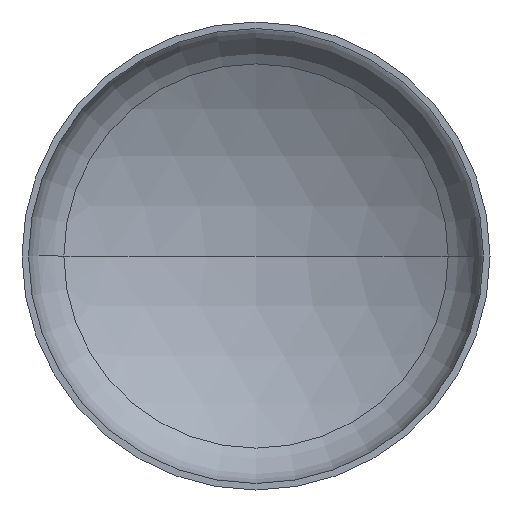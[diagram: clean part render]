
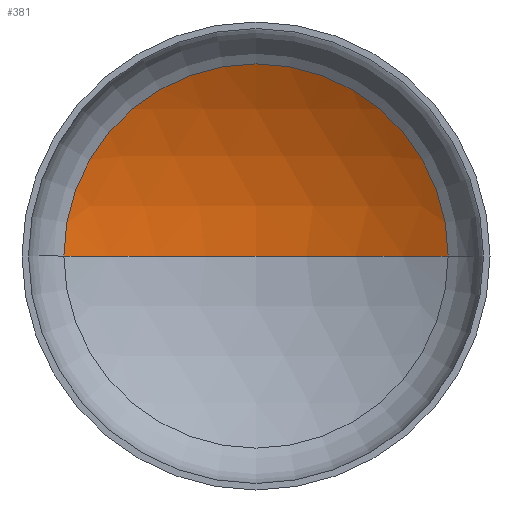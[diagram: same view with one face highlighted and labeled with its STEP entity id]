
A CAD part, front view. The second image highlights one B-rep face of the part: STEP entity #381.
In plain terms, the highlighted spherical face has radius 1600 mm.
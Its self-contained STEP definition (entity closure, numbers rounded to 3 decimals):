
#10 = AXIS2_PLACEMENT_3D ( 'NONE', #187, #291, #206 ) ;
#17 = DIRECTION ( 'NONE',  ( 1., 0., 0. ) ) ;
#20 = DIRECTION ( 'NONE',  ( 0., 0., 1. ) ) ;
#21 = EDGE_LOOP ( 'NONE', ( #111, #101, #48 ) ) ;
#23 = VERTEX_POINT ( 'NONE', #253 ) ;
#25 = CARTESIAN_POINT ( 'NONE',  ( 0., -1022.184, 0. ) ) ;
#46 = AXIS2_PLACEMENT_3D ( 'NONE', #25, #20, #17 ) ;
#48 = ORIENTED_EDGE ( 'NONE', *, *, #190, .T. ) ;
#57 = AXIS2_PLACEMENT_3D ( 'NONE', #309, #275, #274 ) ;
#59 = AXIS2_PLACEMENT_3D ( 'NONE', #220, #221, #259 ) ;
#101 = ORIENTED_EDGE ( 'NONE', *, *, #194, .T. ) ;
#111 = ORIENTED_EDGE ( 'NONE', *, *, #202, .F. ) ;
#126 = VERTEX_POINT ( 'NONE', #289 ) ;
#133 = SPHERICAL_SURFACE ( 'NONE', #10, 1600. ) ;
#139 = VERTEX_POINT ( 'NONE', #306 ) ;
#187 = CARTESIAN_POINT ( 'NONE',  ( 0., -1022.184, 0. ) ) ;
#190 = EDGE_CURVE ( 'NONE', #23, #139, #380, .T. ) ;
#191 = CIRCLE ( 'NONE', #46, 1600. ) ;
#194 = EDGE_CURVE ( 'NONE', #126, #23, #316, .T. ) ;
#202 = EDGE_CURVE ( 'NONE', #126, #139, #191, .T. ) ;
#206 = DIRECTION ( 'NONE',  ( -1., 0., 0. ) ) ;
#220 = CARTESIAN_POINT ( 'NONE',  ( 0., 351.067, 0. ) ) ;
#221 = DIRECTION ( 'NONE',  ( 0., -1., 0. ) ) ;
#253 = CARTESIAN_POINT ( 'NONE',  ( 821.085, 351.067, 0. ) ) ;
#259 = DIRECTION ( 'NONE',  ( 1., 0., 0. ) ) ;
#274 = DIRECTION ( 'NONE',  ( -1., 0., 0. ) ) ;
#275 = DIRECTION ( 'NONE',  ( 0., 0., -1. ) ) ;
#289 = CARTESIAN_POINT ( 'NONE',  ( 0., 577.816, 0. ) ) ;
#291 = DIRECTION ( 'NONE',  ( 0., 0., -1. ) ) ;
#306 = CARTESIAN_POINT ( 'NONE',  ( -821.085, 351.067, 0. ) ) ;
#309 = CARTESIAN_POINT ( 'NONE',  ( 0., -1022.184, 0. ) ) ;
#316 = CIRCLE ( 'NONE', #57, 1600. ) ;
#339 = FACE_OUTER_BOUND ( 'NONE', #21, .T. ) ;
#380 = CIRCLE ( 'NONE', #59, 821.085 ) ;
#381 = ADVANCED_FACE ( 'NONE', ( #339 ), #133, .F. ) ;
